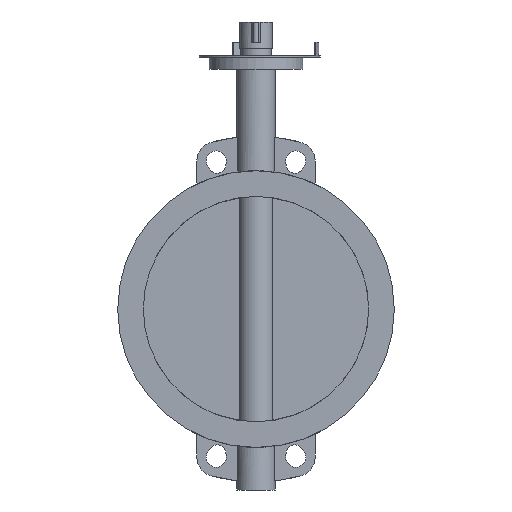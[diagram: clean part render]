
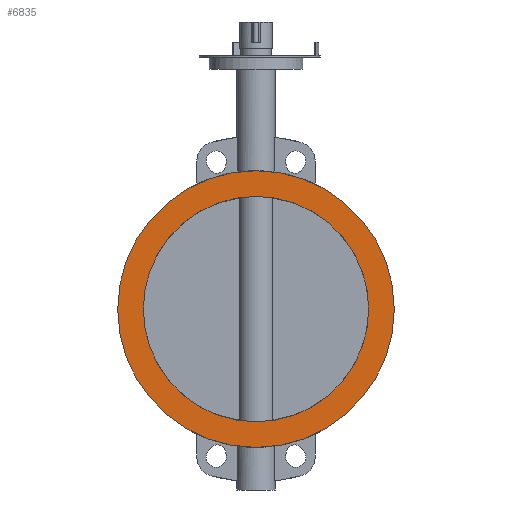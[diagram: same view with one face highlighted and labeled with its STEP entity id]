
A CAD part, left-side view. The second image highlights one B-rep face of the part: STEP entity #6835.
In plain terms, the highlighted planar face has unit normal (-1, 0, 0).
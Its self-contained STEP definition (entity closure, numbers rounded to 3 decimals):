
#6835=ADVANCED_FACE('',(#13658,#13660),#13662,.F.);
#13658=FACE_BOUND('',#13659,.T.);
#13659=EDGE_LOOP('',(#19181));
#13660=FACE_BOUND('',#13661,.T.);
#13661=EDGE_LOOP('',(#19182));
#13662=PLANE('',#13663);
#13663=AXIS2_PLACEMENT_3D('',#13664,#13665,#13666);
#13664=CARTESIAN_POINT('',(-39.,0.,0.));
#13665=DIRECTION('',(1.,0.,0.));
#13666=DIRECTION('',(0.,1.,0.));
#19181=ORIENTED_EDGE('',*,*,#22051,.F.);
#19182=ORIENTED_EDGE('',*,*,#22489,.T.);
#22051=EDGE_CURVE('',#26060,#26060,#26061,.T.);
#22489=EDGE_CURVE('',#26699,#26699,#26700,.T.);
#26060=VERTEX_POINT('',#35476);
#26061=CIRCLE('',#35477,185.);
#26699=VERTEX_POINT('',#37299);
#26700=CIRCLE('',#37300,150.75);
#35476=CARTESIAN_POINT('',(-39.,185.,0.));
#35477=AXIS2_PLACEMENT_3D('',#35478,#35479,#35480);
#35478=CARTESIAN_POINT('',(-39.,0.,0.));
#35479=DIRECTION('',(1.,0.,0.));
#35480=DIRECTION('',(0.,1.,0.));
#37299=CARTESIAN_POINT('',(-39.,150.75,0.));
#37300=AXIS2_PLACEMENT_3D('',#37301,#37302,#37303);
#37301=CARTESIAN_POINT('',(-39.,0.,0.));
#37302=DIRECTION('',(1.,0.,0.));
#37303=DIRECTION('',(0.,1.,0.));
